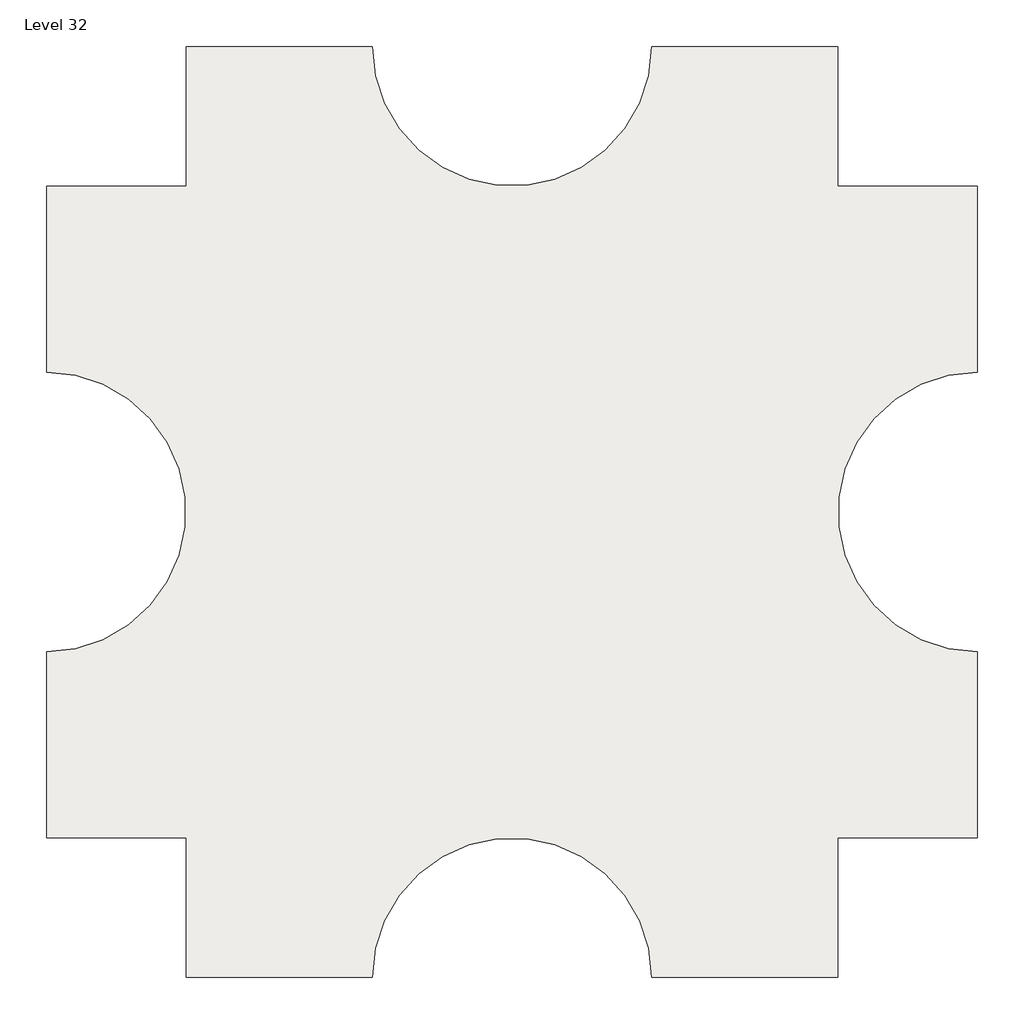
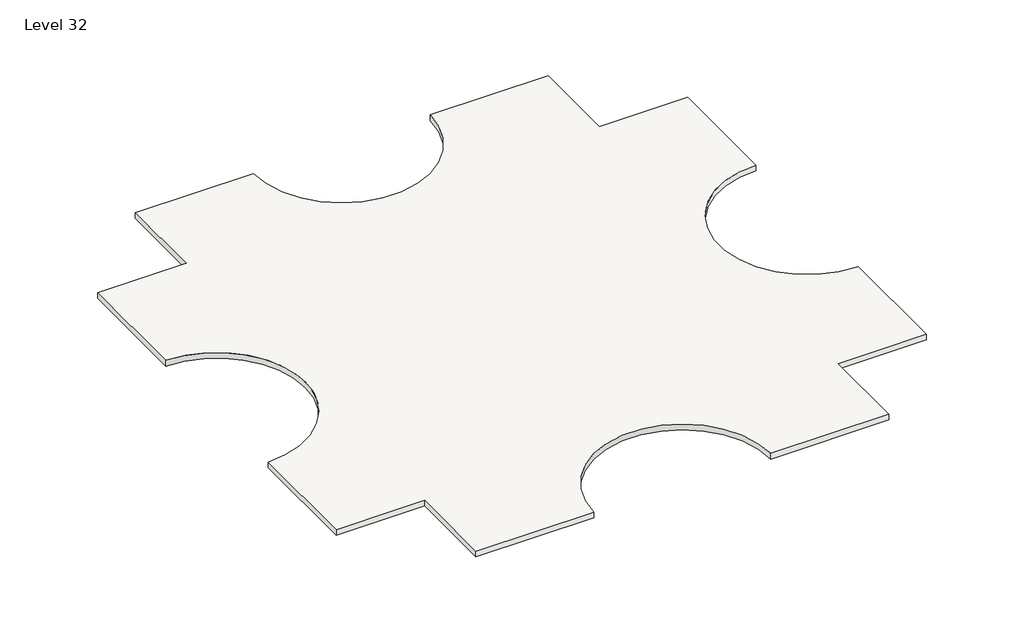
# One storey: 2 slabs.
"""IFC4 building model written with IfcOpenShell, lengths in millimetres."""

from ifc_helpers import new_model, si_unit, point, frame, frame_2d, origin, place, context, project, spatial, polyline, circle_curve, trimmed, segment, composite_curve, outline, extrude, element, save

model = new_model("IFC4")

# Units and contexts
model_context = context("Model", 3, world=origin())
ifc_project = project(units=[si_unit("LENGTHUNIT", "METRE", prefix="MILLI")], contexts=[model_context])

# Site, building, storey
site = spatial("IfcSite", under=ifc_project)
building = spatial("IfcBuilding", under=site)
storey = spatial("IfcBuildingStorey", under=building, Name="Level 32", Elevation=94488.0)

# Slabs
placement = place(None, origin())
element("IfcSlab", 1, ObjectType="Generic - 12\"", at=placement, inside=storey, context=model_context, shape_type="SweptSolid", body=[
    extrude(outline(composite_curve([segment(polyline([(-7150.3629456, 4479.6634547), (-7150.3629456, 9051.6634547), (-1054.3629456, 9051.6634547)]), True, "CONTINUOUS"), segment(trimmed(circle_curve(frame_2d((3517.6370544, 9051.6634547)), 4572.0), [point((-1054.3629456, 9051.6634547))], [point((8089.6370544, 9051.6634547))], True, "CARTESIAN"), True, "CONTINUOUS"), segment(polyline([(8089.6370544, 9051.6634547), (14185.6370544, 9051.6634547), (14185.6370544, 4479.6634547), (18757.6370544, 4479.6634547), (18757.6370544, -1616.3365453)]), True, "CONTINUOUS"), segment(trimmed(circle_curve(frame_2d((18757.6370544, -6188.3365453)), 4572.0), [point((18757.6370544, -1616.3365453))], [point((18757.6370544, -10760.3365453))], True, "CARTESIAN"), True, "CONTINUOUS"), segment(polyline([(18757.6370544, -10760.3365453), (18757.6370544, -16856.3365453), (14185.6370544, -16856.3365453), (14185.6370544, -21428.3365453), (8089.6370544, -21428.3365453)]), True, "CONTINUOUS"), segment(trimmed(circle_curve(frame_2d((3517.6370544, -21428.3365453)), 4572.0), [point((8089.6370544, -21428.3365453))], [point((-1054.3629456, -21428.3365453))], True, "CARTESIAN"), True, "CONTINUOUS"), segment(polyline([(-1054.3629456, -21428.3365453), (-7150.3629456, -21428.3365453), (-7150.3629456, -16856.3365453), (-11722.3629456, -16856.3365453), (-11722.3629456, -10760.3365453)]), True, "CONTINUOUS"), segment(trimmed(circle_curve(frame_2d((-11722.3629456, -6188.3365453)), 4572.0), [point((-11722.3629456, -10760.3365453))], [point((-11722.3629456, -1616.3365453))], True, "CARTESIAN"), True, "CONTINUOUS"), segment(polyline([(-11722.3629456, -1616.3365453), (-11722.3629456, 4479.6634547), (-7150.3629456, 4479.6634547)]), True, "CONTINUOUS")], self_intersect=False)), frame((0.0, 0.0, 94183.2), z_axis=(0.0, 0.0, 1.0), x_axis=(1.0, 0.0, 0.0)), (0.0, 0.0, 1.0), 304.8),
])
element("IfcSlab", 2, ObjectType="Generic - 12\"", at=placement, inside=storey, context=model_context, shape_type="SweptSolid", body=[
    extrude(outline(composite_curve([segment(polyline([(-7150.3629456, 4479.6634547), (-7150.3629456, 9051.6634547), (-1054.3629456, 9051.6634547)]), True, "CONTINUOUS"), segment(trimmed(circle_curve(frame_2d((3517.6370544, 9051.6634547)), 4572.0), [point((-1054.3629456, 9051.6634547))], [point((8089.6370544, 9051.6634547))], True, "CARTESIAN"), True, "CONTINUOUS"), segment(polyline([(8089.6370544, 9051.6634547), (14185.6370544, 9051.6634547), (14185.6370544, 4479.6634547), (18757.6370544, 4479.6634547), (18757.6370544, -1616.3365453)]), True, "CONTINUOUS"), segment(trimmed(circle_curve(frame_2d((18757.6370544, -6188.3365453)), 4572.0), [point((18757.6370544, -1616.3365453))], [point((18757.6370544, -10760.3365453))], True, "CARTESIAN"), True, "CONTINUOUS"), segment(polyline([(18757.6370544, -10760.3365453), (18757.6370544, -16856.3365453), (14185.6370544, -16856.3365453), (14185.6370544, -21428.3365453), (8089.6370544, -21428.3365453)]), True, "CONTINUOUS"), segment(trimmed(circle_curve(frame_2d((3517.6370544, -21428.3365453)), 4572.0), [point((8089.6370544, -21428.3365453))], [point((-1054.3629456, -21428.3365453))], True, "CARTESIAN"), True, "CONTINUOUS"), segment(polyline([(-1054.3629456, -21428.3365453), (-7150.3629456, -21428.3365453), (-7150.3629456, -16856.3365453), (-11722.3629456, -16856.3365453), (-11722.3629456, -10760.3365453)]), True, "CONTINUOUS"), segment(trimmed(circle_curve(frame_2d((-11722.3629456, -6188.3365453)), 4572.0), [point((-11722.3629456, -10760.3365453))], [point((-11722.3629456, -1616.3365453))], True, "CARTESIAN"), True, "CONTINUOUS"), segment(polyline([(-11722.3629456, -1616.3365453), (-11722.3629456, 4479.6634547), (-7150.3629456, 4479.6634547)]), True, "CONTINUOUS")], self_intersect=False)), frame((0.0, 0.0, 94183.2), z_axis=(0.0, 0.0, 1.0), x_axis=(1.0, 0.0, 0.0)), (0.0, 0.0, 1.0), 304.8),
])

save(model, "model.ifc")
